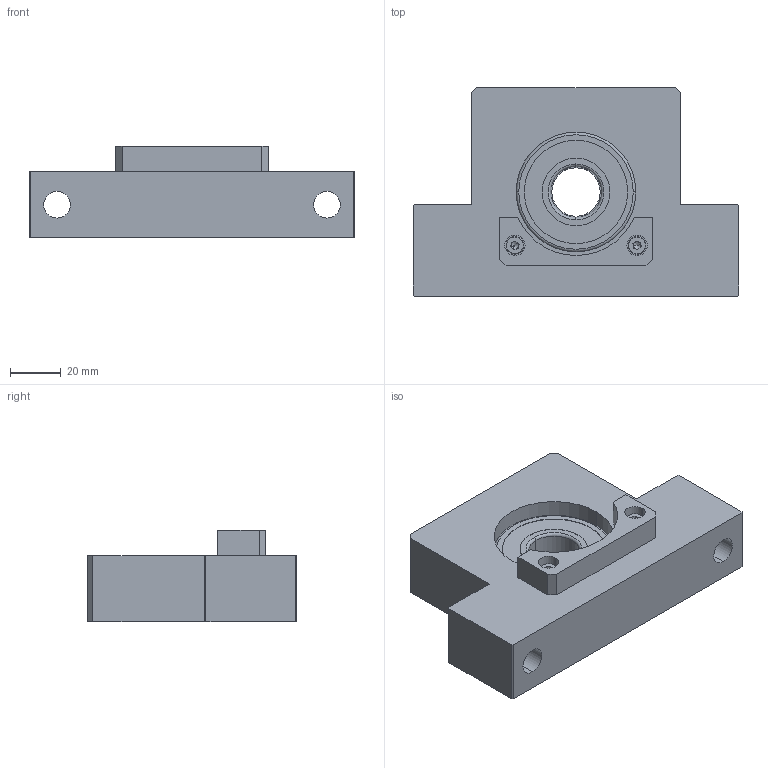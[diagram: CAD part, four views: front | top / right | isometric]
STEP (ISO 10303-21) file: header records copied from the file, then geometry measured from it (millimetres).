
FILE_DESCRIPTION (( 'STEP AP214' ), '1' );
FILE_NAME ('F-SBU-20.80-D.STEP', '2023-04-10T09:44:33', ( '' ), ( '' ), 'SwSTEP 2.0', 'SolidWorks 2021', '' );
FILE_SCHEMA (( 'AUTOMOTIVE_DESIGN' ));
Length unit declared in the file: millimetre
Products named in the file (11): SBU-20-DAMPER; F-SBU-20.80-D; 6204ZZ Ball; 6204ZZ Outer ring; 4-10; 6204ZZ Shield2; 6204ZZ; 6204ZZ Shield1; STWN20; 6204ZZ Inner ring; F-SBU-20.80-D BODY
Assembly tree (23 placements, depth 3):
  F-SBU-20.80-D
    F-SBU-20.80-D BODY
    STWN20
    6204ZZ
      6204ZZ Shield2
      6204ZZ Ball  x13
      6204ZZ Inner ring
      6204ZZ Shield1
      6204ZZ Outer ring
    SBU-20-DAMPER
    4-10  x2
Bounding box: 128 x 82 x 36 mm (x, y, z)
Volume: 186809.5 mm3; surface area: 47272.2 mm2
Topology: 22 solids, 22 shells, 205 faces, 496 edges, 313 vertices
Faces by surface type: plane 75, cylinder 66, sphere 26, cone 20, torus 18
Entity records: 4931 total; most frequent: DIRECTION 873, CARTESIAN_POINT 741, ORIENTED_EDGE 686, AXIS2_PLACEMENT_3D 349, EDGE_CURVE 343, VERTEX_POINT 217, EDGE_LOOP 186, VECTOR 175
